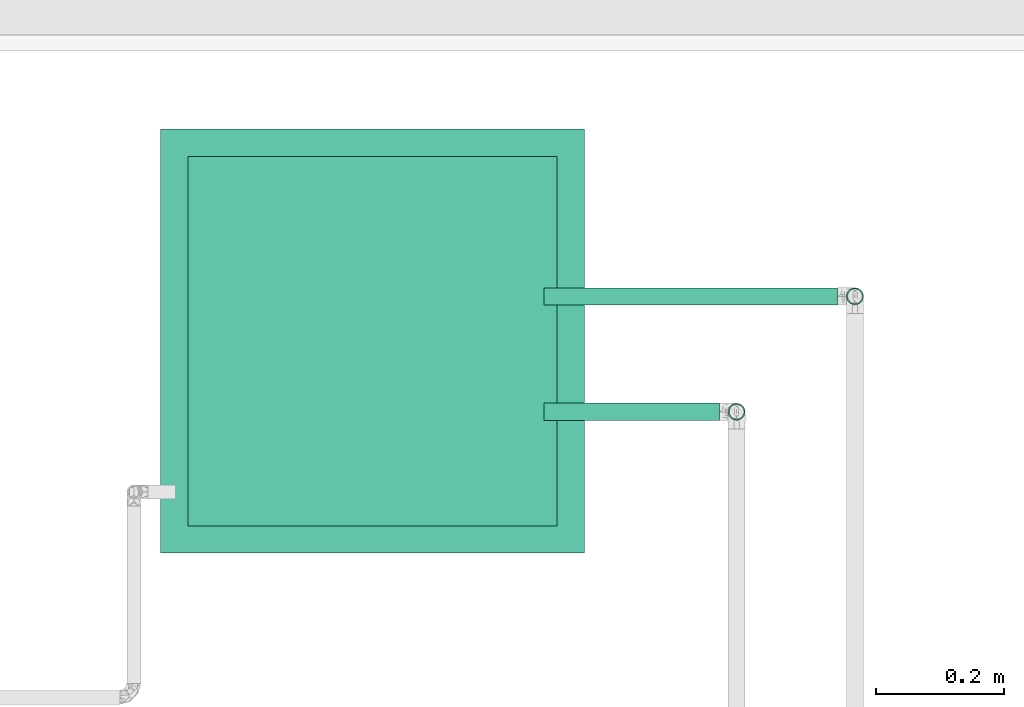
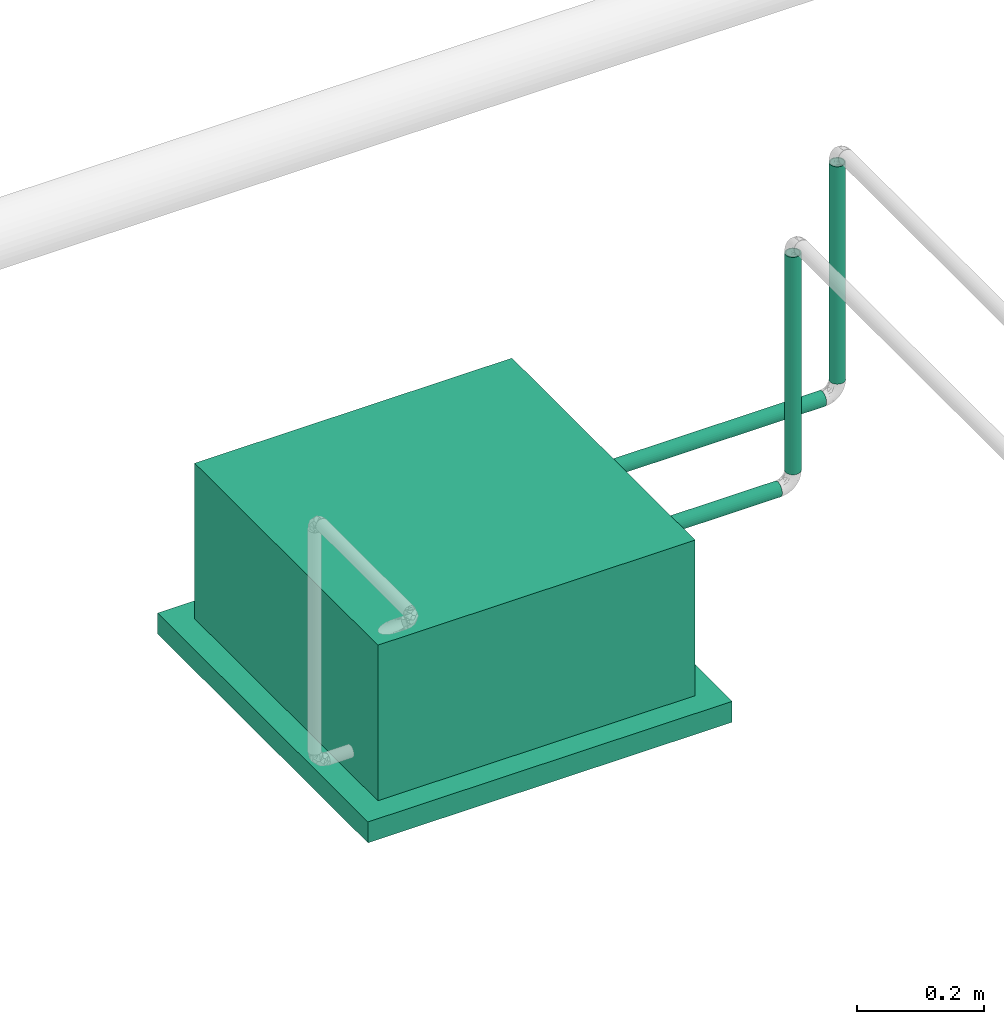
# One storey, part 11 of 35: 4 flow segments, 1 energy conversion device.
"""IFC2X3 building model written with IfcOpenShell, lengths in millimetres."""

import ifcopenshell
import ifcopenshell.guid

model = None  # the IFC model being written
_history = None  # IfcOwnerHistory: only IFC2X3 demands one
_inside = {}  # id of a spatial element -> (the spatial element, [elements in it])
_under = {}  # id of a project, library or spatial element -> (it, [spatial elements below it])
_declared = {}  # id of a project -> (the project, [libraries it declares])
_typed = {}  # id of a type object -> (the type object, [elements of that type])
_made_of = {}  # id of a material, layer set ... -> (it, [elements and type objects made of it])


def new_model(schema):
    """Start an empty IFC model of exactly this schema.

    Asked for "IFC4X3", IfcOpenShell would pick the latest addendum, in which some entities
    have other attributes; the version numbers below select the first issue.
    IFC2X3 requires an IfcOwnerHistory on every rooted entity: one is made here for all.
    """
    global model, _history
    if schema == "IFC4X3":
        model = ifcopenshell.file(schema_version=(4, 3, 0, 0))
    else:
        model = ifcopenshell.file(schema=schema)
    _inside.clear()
    _under.clear()
    _declared.clear()
    _typed.clear()
    _made_of.clear()
    _history = None
    if model.schema == "IFC2X3":
        org = make("IfcOrganization", Name="unknown")
        user = make(
            "IfcPersonAndOrganization",
            ThePerson=make("IfcPerson", FamilyName="unknown"),
            TheOrganization=org,
        )
        app = make(
            "IfcApplication",
            ApplicationDeveloper=org,
            Version="unknown",
            ApplicationFullName="unknown",
            ApplicationIdentifier="unknown",
        )
        _history = make(
            "IfcOwnerHistory",
            OwningUser=user,
            OwningApplication=app,
            ChangeAction="ADDED",
            CreationDate=0,
        )
    return model


def make(cls, **values):
    """One entity of the class cls with the attributes given. An attribute that is None is left unset."""
    return model.create_entity(
        cls, **{name: value for name, value in values.items() if value is not None}
    )


def entity(cls, *values):
    """Any entity or typed value of the class cls, its attributes in the order of the schema. None: left unset."""
    e = model.create_entity(cls)
    for i, value in enumerate(values):
        if value is not None:
            e[i] = value
    return e


def rooted(cls, **values):
    """An entity with a GlobalId (a new one), such as an element, a storey or a relation."""
    return make(cls, GlobalId=ifcopenshell.guid.new(), OwnerHistory=_history, **values)


def si_unit(unit_type, name, prefix=None):
    """IfcSIUnit, for example si_unit("LENGTHUNIT", "METRE", prefix="MILLI")."""
    return make("IfcSIUnit", UnitType=unit_type, Prefix=prefix, Name=name)


def converted_unit(unit_type, name, factor, base, dimensions=None, offset=None):
    """IfcConversionBasedUnit, such as the inch: factor (a typed value) times the base unit."""
    return make(
        "IfcConversionBasedUnit"
        if offset is None
        else "IfcConversionBasedUnitWithOffset",
        ConversionOffset=offset,
        Dimensions=None
        if dimensions is None
        else entity("IfcDimensionalExponents", *dimensions),
        UnitType=unit_type,
        Name=name,
        ConversionFactor=make(
            "IfcMeasureWithUnit", ValueComponent=factor, UnitComponent=base
        ),
    )


def derived_unit(unit_type, elements):
    """IfcDerivedUnit: a product of units, each with its exponent."""
    return make(
        "IfcDerivedUnit",
        Elements=[
            make("IfcDerivedUnitElement", Unit=unit, Exponent=power)
            for unit, power in elements
        ],
        UnitType=unit_type,
    )


def assignment(units):
    """IfcUnitAssignment: the units of a project."""
    return None if units is None else make("IfcUnitAssignment", Units=units)


def point(xyz):
    """IfcCartesianPoint."""
    return None if xyz is None else make("IfcCartesianPoint", Coordinates=xyz)


def direction(xyz):
    """IfcDirection."""
    return None if xyz is None else make("IfcDirection", DirectionRatios=xyz)


def frame(location, z_axis=None, x_axis=None):
    """IfcAxis2Placement3D, a coordinate frame: its origin and axes. An axis left out is left unset."""
    return make(
        "IfcAxis2Placement3D",
        Location=point(location),
        Axis=direction(z_axis),
        RefDirection=direction(x_axis),
    )


def frame_2d(location, x_axis=None):
    """IfcAxis2Placement2D, a coordinate frame in the plane: its origin and x axis."""
    return make(
        "IfcAxis2Placement2D", Location=point(location), RefDirection=direction(x_axis)
    )


def origin_with_axes():
    """The frame at (0, 0, 0) with the z axis (0, 0, 1) and the x axis (1, 0, 0) written out."""
    return frame((0.0, 0.0, 0.0), z_axis=(0.0, 0.0, 1.0), x_axis=(1.0, 0.0, 0.0))


def origin_2d_with_axis():
    """The frame at (0, 0) in the plane with the x axis (1, 0) written out."""
    return frame_2d((0.0, 0.0), x_axis=(1.0, 0.0))


def place(relative_to, where):
    """IfcLocalPlacement: puts the frame where relative to a parent placement (None: the world)."""
    return make(
        "IfcLocalPlacement", PlacementRelTo=relative_to, RelativePlacement=where
    )


def context(
    kind, dimensions, precision=None, world=None, true_north=None, identifier=None
):
    """IfcGeometricRepresentationContext, for example the 3D "Model" context."""
    return make(
        "IfcGeometricRepresentationContext",
        ContextIdentifier=identifier,
        ContextType=kind,
        CoordinateSpaceDimension=dimensions,
        Precision=precision,
        WorldCoordinateSystem=world,
        TrueNorth=true_north,
    )


def subcontext(parent, identifier, kind, view, scale=None):
    """IfcGeometricRepresentationSubContext, for example "Body" below "Model"."""
    return make(
        "IfcGeometricRepresentationSubContext",
        ContextIdentifier=identifier,
        ContextType=kind,
        ParentContext=parent,
        TargetScale=scale,
        TargetView=view,
    )


def project(units=None, contexts=None):
    """IfcProject with its units and contexts."""
    return rooted(
        "IfcProject",
        Name="project",
        RepresentationContexts=contexts,
        UnitsInContext=assignment(units),
    )


def spatial(cls, under=None, at=None, **own):
    """A site, building, storey or space (cls), placed at a placement, below another one or the project."""
    s = rooted(cls, ObjectPlacement=at, **own)
    if under is not None:
        _under.setdefault(under.id(), (under, []))[1].append(s)
    return s


def profile(cls, at=None, kind="AREA", **sizes):
    """A parametric profile (cls). Its sizes go by their IFC names, for example OverallWidth=200.0."""
    return make(cls, ProfileType=kind, Position=at, **sizes)


def hollow_circle(**sizes):
    """IfcCircleHollowProfileDef."""
    return profile("IfcCircleHollowProfileDef", **sizes)


def extrude(swept, where, along, depth):
    """IfcExtrudedAreaSolid: the profile swept, set in the frame where, extruded along a direction by depth."""
    return make(
        "IfcExtrudedAreaSolid",
        SweptArea=swept,
        Position=where,
        ExtrudedDirection=direction(along),
        Depth=depth,
    )


def faces_of(points, faces, orient=None, outer=None):
    """IfcFace entities. A face is a list of loops; a loop is a list of indices into points, from 0.

    orient and outer hold one flag for each loop. By default every Orientation is true, the
    first loop of a face is its IfcFaceOuterBound and the others are IfcFaceBound.
    """
    made = []
    for i, loops in enumerate(faces):
        bounds = []
        for j, loop in enumerate(loops):
            is_outer = j == 0 if outer is None else outer[i][j]
            bounds.append(
                make(
                    "IfcFaceOuterBound" if is_outer else "IfcFaceBound",
                    Bound=make("IfcPolyLoop", Polygon=[points[k] for k in loop]),
                    Orientation=True if orient is None else orient[i][j],
                )
            )
        made.append(make("IfcFace", Bounds=bounds))
    return made


def open_shell(faces, orient=None, outer=None):
    """The faces of one IfcOpenShell. surface_model builds it on its shared points."""
    return ("IfcOpenShell", faces, orient, outer)


def surface_model(cls, points, shells):
    """IfcFaceBasedSurfaceModel or IfcShellBasedSurfaceModel (cls): surfaces that need not close."""
    shared = [point(p) for p in points]
    made = [make(c, CfsFaces=faces_of(shared, fs, o, b)) for c, fs, o, b in shells]
    if cls == "IfcFaceBasedSurfaceModel":
        return make(cls, FbsmFaces=made)
    return make(cls, SbsmBoundary=made)


def shape(context_of_items, identifier, shape_type, items):
    """IfcShapeRepresentation: the items that make up one representation, for example the "Body"."""
    return make(
        "IfcShapeRepresentation",
        ContextOfItems=context_of_items,
        RepresentationIdentifier=identifier,
        RepresentationType=shape_type,
        Items=items,
    )


def source(mapping_origin, context_of_items, identifier, shape_type, items):
    """IfcRepresentationMap: a shape defined once, which mapped items show again and again."""
    return make(
        "IfcRepresentationMap",
        MappingOrigin=mapping_origin,
        MappedRepresentation=shape(context_of_items, identifier, shape_type, items),
    )


def transform(
    local_origin,
    x_axis=None,
    y_axis=None,
    z_axis=None,
    scale=None,
    scale2=None,
    scale3=None,
    uniform=True,
):
    """IfcCartesianTransformationOperator3D, or its non-uniform kind. x_axis, y_axis, z_axis: its Axis1, 2, 3."""
    if uniform:
        return make(
            "IfcCartesianTransformationOperator3D",
            Axis1=direction(x_axis),
            Axis2=direction(y_axis),
            LocalOrigin=point(local_origin),
            Scale=scale,
            Axis3=direction(z_axis),
        )
    return make(
        "IfcCartesianTransformationOperator3DnonUniform",
        Axis1=direction(x_axis),
        Axis2=direction(y_axis),
        LocalOrigin=point(local_origin),
        Scale=scale,
        Axis3=direction(z_axis),
        Scale2=scale2,
        Scale3=scale3,
    )


def mapped(mapping_source, mapping_target):
    """IfcMappedItem: shows the shape of a source again, moved by a transform."""
    return make(
        "IfcMappedItem", MappingSource=mapping_source, MappingTarget=mapping_target
    )


def made_of(thing, what):
    """Note that an element or type object is made of a material, layer set ...; save() writes the relation."""
    if what is not None:
        _made_of.setdefault(what.id(), (what, []))[1].append(thing)
    return thing


def type_object(cls, material=None, **own):
    """A type object (cls), such as IfcWallType, which elements share."""
    return made_of(rooted(cls, **own), material)


def element(
    cls,
    number,
    at=None,
    inside=None,
    cuts=None,
    type_object=None,
    material=None,
    context=None,
    identifier="Body",
    shape_type=None,
    held_by="IfcProductDefinitionShape",
    body=None,
    shapes=None,
    **own,
):
    """One element of the class cls, such as IfcWall. Its Tag is "e" and its number.

    at: its placement. inside: the storey or other place that contains it. cuts: it is an
    opening in that element (IfcRelVoidsElement). A single representation is given by context,
    identifier, shape_type and body (its items); several are given by shapes. held_by: the class
    of the entity that holds the representations. save() writes the other relations.
    """
    e = rooted(cls, Tag="e%d" % number, ObjectPlacement=at, **own)
    if body is not None:
        shapes = [shape(context, identifier, shape_type, body)]
    if shapes is not None:
        e.Representation = make(held_by, Representations=shapes)
    if inside is not None:
        _inside.setdefault(inside.id(), (inside, []))[1].append(e)
    if cuts is not None:
        rooted(
            "IfcRelVoidsElement", RelatingBuildingElement=cuts, RelatedOpeningElement=e
        )
    if type_object is not None:
        _typed.setdefault(type_object.id(), (type_object, []))[1].append(e)
    return made_of(e, material)


def aggregate(whole, parts):
    """IfcRelAggregates: a whole, such as a stair, and the parts it consists of."""
    return rooted("IfcRelAggregates", RelatingObject=whole, RelatedObjects=parts)


def save(model, path):
    """Write the relations noted so far, then the file.

    IfcRelAggregates (storeys below a building ...), IfcRelContainedInSpatialStructure (elements
    in a storey), IfcRelDefinesByType, IfcRelAssociatesMaterial and IfcRelDeclares: one each for
    every whole, place, type object, material and project.
    """
    for whole, parts in _under.values():
        aggregate(whole, parts)
    for where, things in _inside.values():
        rooted(
            "IfcRelContainedInSpatialStructure",
            RelatedElements=things,
            RelatingStructure=where,
        )
    for kind, things in _typed.values():
        rooted("IfcRelDefinesByType", RelatedObjects=things, RelatingType=kind)
    for what, things in _made_of.values():
        rooted("IfcRelAssociatesMaterial", RelatedObjects=things, RelatingMaterial=what)
    for by, libraries in _declared.values():
        rooted("IfcRelDeclares", RelatingContext=by, RelatedDefinitions=libraries)
    model.write(path)


model = new_model("IFC2X3")

# Units and contexts
model_context = context("Model", 3, precision=0.01, world=frame((0.0, 4.29681676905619e-09, 0.0)), true_north=direction((4.01073788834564e-13, 1.0)))
plan_context = context("Plan", 3, precision=0.01, world=frame((0.0, 4.29681676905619e-09, 0.0)), true_north=direction((4.01073788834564e-13, 1.0)))
body_context = subcontext(model_context, "Body", "Model", "MODEL_VIEW")
ifc_project = project(units=[converted_unit("PLANEANGLEUNIT", "DEGREE", entity("IfcPositiveLengthMeasure", 0.0174532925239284), si_unit("PLANEANGLEUNIT", "RADIAN"), dimensions=[0, 0, 0, 0, 0, 0, 0]), si_unit("AREAUNIT", "SQUARE_METRE"), si_unit("LENGTHUNIT", "METRE", prefix="MILLI"), si_unit("MASSUNIT", "GRAM", prefix="KILO"), si_unit("POWERUNIT", "WATT"), si_unit("PRESSUREUNIT", "PASCAL"), si_unit("FORCEUNIT", "NEWTON", prefix="KILO"), si_unit("ELECTRICVOLTAGEUNIT", "VOLT"), si_unit("ELECTRICCURRENTUNIT", "AMPERE"), si_unit("THERMODYNAMICTEMPERATUREUNIT", "DEGREE_CELSIUS"), si_unit("TIMEUNIT", "SECOND"), si_unit("VOLUMEUNIT", "CUBIC_METRE"), derived_unit("LINEARVELOCITYUNIT", [(si_unit("LENGTHUNIT", "METRE"), 1), (si_unit("TIMEUNIT", "SECOND"), -1)]), derived_unit("VOLUMETRICFLOWRATEUNIT", [(si_unit("VOLUMEUNIT", "CUBIC_METRE"), 1), (si_unit("TIMEUNIT", "SECOND"), -1)]), derived_unit("THERMALTRANSMITTANCEUNIT", [(si_unit("POWERUNIT", "WATT"), 1), (si_unit("THERMODYNAMICTEMPERATUREUNIT", "KELVIN"), -1), (si_unit("AREAUNIT", "SQUARE_METRE"), -1)]), derived_unit("SOUNDPRESSUREUNIT", [(si_unit("PRESSUREUNIT", "PASCAL"), 1)])], contexts=[model_context, plan_context])

# Site, building, storey
site_placement = place(None, frame((0.0, -4.29681676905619e-09, 0.0), z_axis=(0.0, 0.0, 1.0), x_axis=(1.0, 0.0, 0.0)))
site = spatial("IfcSite", under=ifc_project, at=site_placement, Name="ENGM", CompositionType="ELEMENT")
building_placement = place(site_placement, frame((0.0, 4.29681676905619e-09, 0.0), z_axis=(0.0, 0.0, 1.0), x_axis=(1.0, 0.0, 0.0)))
building = spatial("IfcBuilding", under=site, at=building_placement, Name="TH", CompositionType="ELEMENT")
storey_placement = place(building_placement, frame((0.0, 0.0, 210200.0), z_axis=(0.0, 0.0, 1.0), x_axis=(1.0, 0.0, 0.0)))
storey = spatial("IfcBuildingStorey", under=building, at=storey_placement, Name="Nivå F - 0,7 m", CompositionType="ELEMENT", Elevation=210200.0)

# Energy conversion device
coil_type = type_object("IfcCoilType", Name="GCS2.UWW.K01", PredefinedType="WATERHEATINGCOIL")
shared_shape_1 = source(origin_with_axes(), body_context, "Body", "SurfaceModel", [
    surface_model("IfcShellBasedSurfaceModel", [(-329.99999, 329.99999, 0.0), (-329.99999, -329.99999, 0.0), (329.99999, -329.99999, 0.0), (329.99999, 329.99999, 0.0), (329.99999, 329.99999, -40.0), (329.99999, -329.99999, -40.0), (-329.99999, -329.99999, -40.0), (-329.99999, 329.99999, -40.0), (-287.5, 287.5, 25.0), (-287.5, -287.5, 25.0), (287.5, -287.5, 25.0), (287.5, 287.5, 25.0), (287.5, 287.5, 0.0), (287.5, -287.5, 0.0), (-287.5, -287.5, 0.0), (-287.5, 287.5, 0.0), (-287.5, 287.5, 298.0), (-287.5, -287.5, 298.0), (287.5, -287.5, 298.0), (287.5, 287.5, 298.0)], [open_shell([[[0, 1, 2]], [[2, 3, 0]], [[4, 5, 6]], [[6, 7, 4]], [[2, 1, 6]], [[6, 5, 2]], [[3, 2, 5]], [[5, 4, 3]], [[0, 3, 4]], [[4, 7, 0]], [[1, 0, 7]], [[7, 6, 1]], [[8, 9, 10]], [[10, 11, 8]], [[12, 13, 14]], [[14, 15, 12]], [[10, 9, 14]], [[14, 13, 10]], [[11, 10, 13]], [[13, 12, 11]], [[8, 11, 12]], [[12, 15, 8]], [[9, 8, 15]], [[15, 14, 9]], [[16, 17, 18]], [[18, 19, 16]], [[11, 10, 9]], [[9, 8, 11]], [[18, 17, 10]], [[9, 10, 17]], [[19, 18, 11]], [[10, 11, 18]], [[16, 19, 8]], [[11, 8, 19]], [[17, 16, 9]], [[8, 9, 16]]])]),
])
energy_conversion_device_placement = place(storey_placement, frame((899470.0, 485855.40642, 2400.0), z_axis=(0.0, 0.0, 1.0), x_axis=(0.0, -1.0, 0.0)))
element("IfcEnergyConversionDevice", 1, at=energy_conversion_device_placement, inside=storey, type_object=coil_type, Name="GCS2.UWW.K01", context=body_context, shape_type="MappedRepresentation", body=[
    mapped(shared_shape_1, transform((0.0, 0.0, 0.0), scale=1.0)),
])

# Flow segments
pipe_segment_type = type_object("IfcPipeSegmentType", Name="Stålrør normaltykke", PredefinedType="RIGIDSEGMENT")
shared_shape_2 = source(origin_with_axes(), body_context, "Body", "SweptSolid", [
    extrude(hollow_circle(Radius=13.3, WallThickness=2.0, at=origin_2d_with_axis()), frame((0.0, 0.0, 0.0), z_axis=(1.0, 0.0, 0.0), x_axis=(0.0, 1.0, 0.0)), (0.0, 0.0, 1.0), 273.2),
])
flow_segment_1_placement = place(storey_placement, frame((900010.20487, 485745.36097, 2600.0), z_axis=(0.0, 0.0, 1.0), x_axis=(-1.0, 0.0, 0.0)))
element("IfcFlowSegment", 2, at=flow_segment_1_placement, inside=storey, type_object=pipe_segment_type, Name="Stålrør normaltykke", context=body_context, shape_type="MappedRepresentation", body=[
    mapped(shared_shape_2, transform((0.0, 0.0, 0.0), scale=1.0)),
])
shared_shape_3 = source(origin_with_axes(), body_context, "Body", "SweptSolid", [
    extrude(hollow_circle(Radius=13.3, WallThickness=2.0, at=origin_2d_with_axis()), frame((0.0, 0.0, 0.0), z_axis=(1.0, 0.0, 0.0), x_axis=(0.0, 1.0, 0.0)), (0.0, 0.0, 1.0), 416.5),
])
for number, where, z_axis, x_axis in (
    (3, (900037.00487, 485745.36097, 2626.79999999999), (-1.0, 0.0, 0.0), (0.0, 0.0, 1.0)),
    (4, (900221.2, 485925.17011, 3043.25), (-1.0, 0.0, 0.0), (0.0, 3.999999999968e-06, -0.999999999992)),
):
    element("IfcFlowSegment", number, at=place(storey_placement, frame(where, z_axis=z_axis, x_axis=x_axis)), inside=storey, type_object=pipe_segment_type, Name="Stålrør normaltykke", context=body_context, shape_type="MappedRepresentation", body=[
        mapped(shared_shape_3, transform((0.0, 0.0, 0.0), scale=1.0)),
    ])
shared_shape_4 = source(origin_with_axes(), body_context, "Body", "SweptSolid", [
    extrude(hollow_circle(Radius=13.3, WallThickness=2.0, at=origin_2d_with_axis()), frame((0.0, 0.0, 0.0), z_axis=(1.0, 0.0, 0.0), x_axis=(0.0, 1.0, 0.0)), (0.0, 0.0, 1.0), 457.4),
])
flow_segment_2_placement = place(storey_placement, frame((900194.4, 485925.17011, 2600.0), z_axis=(0.0, 0.0, 1.0), x_axis=(-1.0, 0.0, 0.0)))
element("IfcFlowSegment", 5, at=flow_segment_2_placement, inside=storey, type_object=pipe_segment_type, Name="Stålrør normaltykke", context=body_context, shape_type="MappedRepresentation", body=[
    mapped(shared_shape_4, transform((0.0, 0.0, 0.0), scale=1.0)),
])

save(model, "model.ifc")
